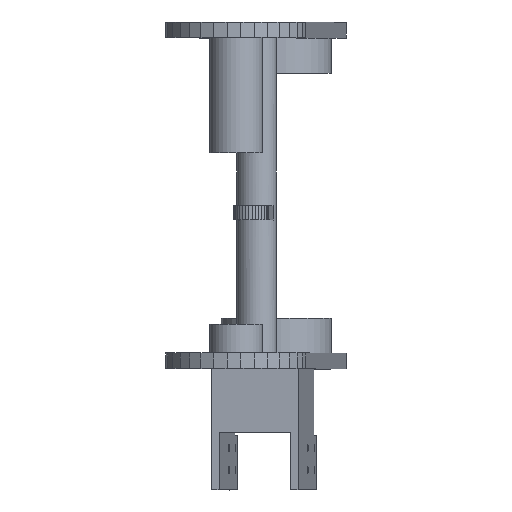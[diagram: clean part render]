
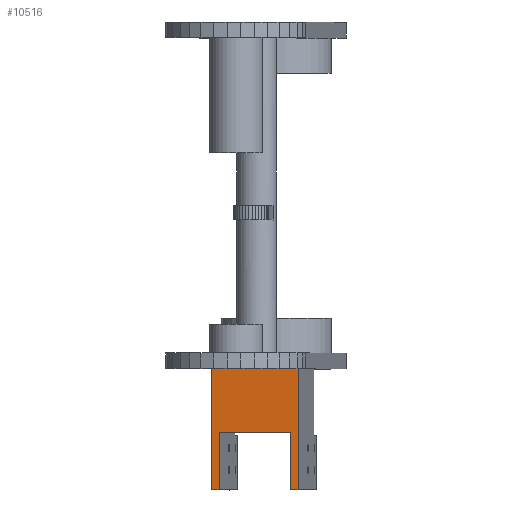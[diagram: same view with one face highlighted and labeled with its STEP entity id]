
A CAD part, top view. The second image highlights one B-rep face of the part: STEP entity #10516.
In plain terms, the highlighted planar face has unit normal (-0.126, 0, 0.992).
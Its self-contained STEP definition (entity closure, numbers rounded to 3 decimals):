
#7002 = PLANE('',#7003);
#7003 = AXIS2_PLACEMENT_3D('',#7004,#7005,#7006);
#7004 = CARTESIAN_POINT('',(95.875,-24.8,-284.02));
#7005 = DIRECTION('',(0.,1.,0.));
#7006 = DIRECTION('',(0.,-0.,1.));
#10068 = EDGE_CURVE('',#10069,#10071,#10073,.T.);
#10069 = VERTEX_POINT('',#10070);
#10070 = CARTESIAN_POINT('',(75.678,-24.8,-282.139));
#10071 = VERTEX_POINT('',#10072);
#10072 = CARTESIAN_POINT('',(114.964,-24.8,-277.162));
#10073 = SURFACE_CURVE('',#10074,(#10078,#10084),.PCURVE_S1.);
#10074 = LINE('',#10075,#10076);
#10075 = CARTESIAN_POINT('',(85.5,-24.8,-280.895));
#10076 = VECTOR('',#10077,1.);
#10077 = DIRECTION('',(0.992,-0.,0.126));
#10078 = PCURVE('',#7002,#10079);
#10079 = DEFINITIONAL_REPRESENTATION('',(#10080),#10083);
#10080 = B_SPLINE_CURVE_WITH_KNOTS('',1,(#10081,#10082),.UNSPECIFIED.,
  .F.,.F.,(2,2),(-9.9,29.7),.PIECEWISE_BEZIER_KNOTS.);
#10081 = CARTESIAN_POINT('',(1.881,-20.197));
#10082 = CARTESIAN_POINT('',(6.858,19.089));
#10083 = ( GEOMETRIC_REPRESENTATION_CONTEXT(2) 
PARAMETRIC_REPRESENTATION_CONTEXT() REPRESENTATION_CONTEXT('2D SPACE',''
  ) );
#10084 = PCURVE('',#10085,#10090);
#10085 = PLANE('',#10086);
#10086 = AXIS2_PLACEMENT_3D('',#10087,#10088,#10089);
#10087 = CARTESIAN_POINT('',(75.678,-79.8,-282.139));
#10088 = DIRECTION('',(-0.126,0.,0.992));
#10089 = DIRECTION('',(0.,1.,0.));
#10090 = DEFINITIONAL_REPRESENTATION('',(#10091),#10094);
#10091 = B_SPLINE_CURVE_WITH_KNOTS('',1,(#10092,#10093),.UNSPECIFIED.,
  .F.,.F.,(2,2),(-9.9,29.7),.PIECEWISE_BEZIER_KNOTS.);
#10092 = CARTESIAN_POINT('',(55.,0.));
#10093 = CARTESIAN_POINT('',(55.,-39.6));
#10094 = ( GEOMETRIC_REPRESENTATION_CONTEXT(2) 
PARAMETRIC_REPRESENTATION_CONTEXT() REPRESENTATION_CONTEXT('2D SPACE',''
  ) );
#10111 = PLANE('',#10112);
#10112 = AXIS2_PLACEMENT_3D('',#10113,#10114,#10115);
#10113 = CARTESIAN_POINT('',(83.974,-79.8,-347.616));
#10114 = DIRECTION('',(0.992,0.,0.126));
#10115 = DIRECTION('',(0.,1.,0.));
#10163 = PLANE('',#10164);
#10164 = AXIS2_PLACEMENT_3D('',#10165,#10166,#10167);
#10165 = CARTESIAN_POINT('',(87.447,-79.8,-347.176));
#10166 = DIRECTION('',(0.992,0.,0.126));
#10167 = DIRECTION('',(0.,1.,0.));
#10215 = PLANE('',#10216);
#10216 = AXIS2_PLACEMENT_3D('',#10217,#10218,#10219);
#10217 = CARTESIAN_POINT('',(119.788,-79.8,-343.078));
#10218 = DIRECTION('',(0.992,0.,0.126));
#10219 = DIRECTION('',(0.,1.,0.));
#10260 = PLANE('',#10261);
#10261 = AXIS2_PLACEMENT_3D('',#10262,#10263,#10264);
#10262 = CARTESIAN_POINT('',(123.26,-79.8,-342.638));
#10263 = DIRECTION('',(0.992,0.,0.126));
#10264 = DIRECTION('',(0.,1.,0.));
#10516 = ADVANCED_FACE('',(#10517),#10085,.T.);
#10517 = FACE_BOUND('',#10518,.T.);
#10518 = EDGE_LOOP('',(#10519,#10542,#10570,#10593,#10621,#10644,#10672,
    #10693));
#10519 = ORIENTED_EDGE('',*,*,#10520,.F.);
#10520 = EDGE_CURVE('',#10521,#10069,#10523,.T.);
#10521 = VERTEX_POINT('',#10522);
#10522 = CARTESIAN_POINT('',(75.678,-79.8,-282.139));
#10523 = SURFACE_CURVE('',#10524,(#10528,#10535),.PCURVE_S1.);
#10524 = LINE('',#10525,#10526);
#10525 = CARTESIAN_POINT('',(75.678,-79.8,-282.139));
#10526 = VECTOR('',#10527,1.);
#10527 = DIRECTION('',(0.,1.,0.));
#10528 = PCURVE('',#10085,#10529);
#10529 = DEFINITIONAL_REPRESENTATION('',(#10530),#10534);
#10530 = LINE('',#10531,#10532);
#10531 = CARTESIAN_POINT('',(0.,0.));
#10532 = VECTOR('',#10533,1.);
#10533 = DIRECTION('',(1.,0.));
#10534 = ( GEOMETRIC_REPRESENTATION_CONTEXT(2) 
PARAMETRIC_REPRESENTATION_CONTEXT() REPRESENTATION_CONTEXT('2D SPACE',''
  ) );
#10535 = PCURVE('',#10111,#10536);
#10536 = DEFINITIONAL_REPRESENTATION('',(#10537),#10541);
#10537 = LINE('',#10538,#10539);
#10538 = CARTESIAN_POINT('',(0.,66.));
#10539 = VECTOR('',#10540,1.);
#10540 = DIRECTION('',(1.,0.));
#10541 = ( GEOMETRIC_REPRESENTATION_CONTEXT(2) 
PARAMETRIC_REPRESENTATION_CONTEXT() REPRESENTATION_CONTEXT('2D SPACE',''
  ) );
#10542 = ORIENTED_EDGE('',*,*,#10543,.T.);
#10543 = EDGE_CURVE('',#10521,#10544,#10546,.T.);
#10544 = VERTEX_POINT('',#10545);
#10545 = CARTESIAN_POINT('',(79.151,-79.8,-281.7));
#10546 = SURFACE_CURVE('',#10547,(#10551,#10558),.PCURVE_S1.);
#10547 = LINE('',#10548,#10549);
#10548 = CARTESIAN_POINT('',(75.678,-79.8,-282.139));
#10549 = VECTOR('',#10550,1.);
#10550 = DIRECTION('',(0.992,0.,0.126));
#10551 = PCURVE('',#10085,#10552);
#10552 = DEFINITIONAL_REPRESENTATION('',(#10553),#10557);
#10553 = LINE('',#10554,#10555);
#10554 = CARTESIAN_POINT('',(0.,0.));
#10555 = VECTOR('',#10556,1.);
#10556 = DIRECTION('',(0.,-1.));
#10557 = ( GEOMETRIC_REPRESENTATION_CONTEXT(2) 
PARAMETRIC_REPRESENTATION_CONTEXT() REPRESENTATION_CONTEXT('2D SPACE',''
  ) );
#10558 = PCURVE('',#10559,#10564);
#10559 = PLANE('',#10560);
#10560 = AXIS2_PLACEMENT_3D('',#10561,#10562,#10563);
#10561 = CARTESIAN_POINT('',(83.974,-79.8,-347.616));
#10562 = DIRECTION('',(0.,1.,0.));
#10563 = DIRECTION('',(-0.126,0.,0.992));
#10564 = DEFINITIONAL_REPRESENTATION('',(#10565),#10569);
#10565 = LINE('',#10566,#10567);
#10566 = CARTESIAN_POINT('',(66.,0.));
#10567 = VECTOR('',#10568,1.);
#10568 = DIRECTION('',(0.,1.));
#10569 = ( GEOMETRIC_REPRESENTATION_CONTEXT(2) 
PARAMETRIC_REPRESENTATION_CONTEXT() REPRESENTATION_CONTEXT('2D SPACE',''
  ) );
#10570 = ORIENTED_EDGE('',*,*,#10571,.F.);
#10571 = EDGE_CURVE('',#10572,#10544,#10574,.T.);
#10572 = VERTEX_POINT('',#10573);
#10573 = CARTESIAN_POINT('',(79.151,-53.8,-281.7));
#10574 = SURFACE_CURVE('',#10575,(#10579,#10586),.PCURVE_S1.);
#10575 = LINE('',#10576,#10577);
#10576 = CARTESIAN_POINT('',(79.151,-24.2,-281.7));
#10577 = VECTOR('',#10578,1.);
#10578 = DIRECTION('',(0.,-1.,0.));
#10579 = PCURVE('',#10085,#10580);
#10580 = DEFINITIONAL_REPRESENTATION('',(#10581),#10585);
#10581 = LINE('',#10582,#10583);
#10582 = CARTESIAN_POINT('',(55.6,-3.5));
#10583 = VECTOR('',#10584,1.);
#10584 = DIRECTION('',(-1.,0.));
#10585 = ( GEOMETRIC_REPRESENTATION_CONTEXT(2) 
PARAMETRIC_REPRESENTATION_CONTEXT() REPRESENTATION_CONTEXT('2D SPACE',''
  ) );
#10586 = PCURVE('',#10163,#10587);
#10587 = DEFINITIONAL_REPRESENTATION('',(#10588),#10592);
#10588 = LINE('',#10589,#10590);
#10589 = CARTESIAN_POINT('',(55.6,66.));
#10590 = VECTOR('',#10591,1.);
#10591 = DIRECTION('',(-1.,0.));
#10592 = ( GEOMETRIC_REPRESENTATION_CONTEXT(2) 
PARAMETRIC_REPRESENTATION_CONTEXT() REPRESENTATION_CONTEXT('2D SPACE',''
  ) );
#10593 = ORIENTED_EDGE('',*,*,#10594,.T.);
#10594 = EDGE_CURVE('',#10572,#10595,#10597,.T.);
#10595 = VERTEX_POINT('',#10596);
#10596 = CARTESIAN_POINT('',(111.492,-53.8,-277.602));
#10597 = SURFACE_CURVE('',#10598,(#10602,#10609),.PCURVE_S1.);
#10598 = LINE('',#10599,#10600);
#10599 = CARTESIAN_POINT('',(75.678,-53.8,-282.139));
#10600 = VECTOR('',#10601,1.);
#10601 = DIRECTION('',(0.992,0.,0.126));
#10602 = PCURVE('',#10085,#10603);
#10603 = DEFINITIONAL_REPRESENTATION('',(#10604),#10608);
#10604 = LINE('',#10605,#10606);
#10605 = CARTESIAN_POINT('',(26.,0.));
#10606 = VECTOR('',#10607,1.);
#10607 = DIRECTION('',(0.,-1.));
#10608 = ( GEOMETRIC_REPRESENTATION_CONTEXT(2) 
PARAMETRIC_REPRESENTATION_CONTEXT() REPRESENTATION_CONTEXT('2D SPACE',''
  ) );
#10609 = PCURVE('',#10610,#10615);
#10610 = PLANE('',#10611);
#10611 = AXIS2_PLACEMENT_3D('',#10612,#10613,#10614);
#10612 = CARTESIAN_POINT('',(76.056,-53.8,-285.116));
#10613 = DIRECTION('',(0.,1.,0.));
#10614 = DIRECTION('',(-0.126,0.,0.992));
#10615 = DEFINITIONAL_REPRESENTATION('',(#10616),#10620);
#10616 = LINE('',#10617,#10618);
#10617 = CARTESIAN_POINT('',(3.,0.));
#10618 = VECTOR('',#10619,1.);
#10619 = DIRECTION('',(0.,1.));
#10620 = ( GEOMETRIC_REPRESENTATION_CONTEXT(2) 
PARAMETRIC_REPRESENTATION_CONTEXT() REPRESENTATION_CONTEXT('2D SPACE',''
  ) );
#10621 = ORIENTED_EDGE('',*,*,#10622,.F.);
#10622 = EDGE_CURVE('',#10623,#10595,#10625,.T.);
#10623 = VERTEX_POINT('',#10624);
#10624 = CARTESIAN_POINT('',(111.492,-79.8,-277.602));
#10625 = SURFACE_CURVE('',#10626,(#10630,#10637),.PCURVE_S1.);
#10626 = LINE('',#10627,#10628);
#10627 = CARTESIAN_POINT('',(111.492,-79.8,-277.602));
#10628 = VECTOR('',#10629,1.);
#10629 = DIRECTION('',(0.,1.,0.));
#10630 = PCURVE('',#10085,#10631);
#10631 = DEFINITIONAL_REPRESENTATION('',(#10632),#10636);
#10632 = LINE('',#10633,#10634);
#10633 = CARTESIAN_POINT('',(0.,-36.1));
#10634 = VECTOR('',#10635,1.);
#10635 = DIRECTION('',(1.,0.));
#10636 = ( GEOMETRIC_REPRESENTATION_CONTEXT(2) 
PARAMETRIC_REPRESENTATION_CONTEXT() REPRESENTATION_CONTEXT('2D SPACE',''
  ) );
#10637 = PCURVE('',#10215,#10638);
#10638 = DEFINITIONAL_REPRESENTATION('',(#10639),#10643);
#10639 = LINE('',#10640,#10641);
#10640 = CARTESIAN_POINT('',(0.,66.));
#10641 = VECTOR('',#10642,1.);
#10642 = DIRECTION('',(1.,0.));
#10643 = ( GEOMETRIC_REPRESENTATION_CONTEXT(2) 
PARAMETRIC_REPRESENTATION_CONTEXT() REPRESENTATION_CONTEXT('2D SPACE',''
  ) );
#10644 = ORIENTED_EDGE('',*,*,#10645,.T.);
#10645 = EDGE_CURVE('',#10623,#10646,#10648,.T.);
#10646 = VERTEX_POINT('',#10647);
#10647 = CARTESIAN_POINT('',(114.964,-79.8,-277.162));
#10648 = SURFACE_CURVE('',#10649,(#10653,#10660),.PCURVE_S1.);
#10649 = LINE('',#10650,#10651);
#10650 = CARTESIAN_POINT('',(111.492,-79.8,-277.602));
#10651 = VECTOR('',#10652,1.);
#10652 = DIRECTION('',(0.992,0.,0.126));
#10653 = PCURVE('',#10085,#10654);
#10654 = DEFINITIONAL_REPRESENTATION('',(#10655),#10659);
#10655 = LINE('',#10656,#10657);
#10656 = CARTESIAN_POINT('',(0.,-36.1));
#10657 = VECTOR('',#10658,1.);
#10658 = DIRECTION('',(0.,-1.));
#10659 = ( GEOMETRIC_REPRESENTATION_CONTEXT(2) 
PARAMETRIC_REPRESENTATION_CONTEXT() REPRESENTATION_CONTEXT('2D SPACE',''
  ) );
#10660 = PCURVE('',#10661,#10666);
#10661 = PLANE('',#10662);
#10662 = AXIS2_PLACEMENT_3D('',#10663,#10664,#10665);
#10663 = CARTESIAN_POINT('',(119.788,-79.8,-343.078));
#10664 = DIRECTION('',(0.,1.,0.));
#10665 = DIRECTION('',(-0.126,0.,0.992));
#10666 = DEFINITIONAL_REPRESENTATION('',(#10667),#10671);
#10667 = LINE('',#10668,#10669);
#10668 = CARTESIAN_POINT('',(66.,0.));
#10669 = VECTOR('',#10670,1.);
#10670 = DIRECTION('',(0.,1.));
#10671 = ( GEOMETRIC_REPRESENTATION_CONTEXT(2) 
PARAMETRIC_REPRESENTATION_CONTEXT() REPRESENTATION_CONTEXT('2D SPACE',''
  ) );
#10672 = ORIENTED_EDGE('',*,*,#10673,.T.);
#10673 = EDGE_CURVE('',#10646,#10071,#10674,.T.);
#10674 = SURFACE_CURVE('',#10675,(#10679,#10686),.PCURVE_S1.);
#10675 = LINE('',#10676,#10677);
#10676 = CARTESIAN_POINT('',(114.964,-79.8,-277.162));
#10677 = VECTOR('',#10678,1.);
#10678 = DIRECTION('',(0.,1.,0.));
#10679 = PCURVE('',#10085,#10680);
#10680 = DEFINITIONAL_REPRESENTATION('',(#10681),#10685);
#10681 = LINE('',#10682,#10683);
#10682 = CARTESIAN_POINT('',(0.,-39.6));
#10683 = VECTOR('',#10684,1.);
#10684 = DIRECTION('',(1.,0.));
#10685 = ( GEOMETRIC_REPRESENTATION_CONTEXT(2) 
PARAMETRIC_REPRESENTATION_CONTEXT() REPRESENTATION_CONTEXT('2D SPACE',''
  ) );
#10686 = PCURVE('',#10260,#10687);
#10687 = DEFINITIONAL_REPRESENTATION('',(#10688),#10692);
#10688 = LINE('',#10689,#10690);
#10689 = CARTESIAN_POINT('',(0.,66.));
#10690 = VECTOR('',#10691,1.);
#10691 = DIRECTION('',(1.,0.));
#10692 = ( GEOMETRIC_REPRESENTATION_CONTEXT(2) 
PARAMETRIC_REPRESENTATION_CONTEXT() REPRESENTATION_CONTEXT('2D SPACE',''
  ) );
#10693 = ORIENTED_EDGE('',*,*,#10068,.F.);
